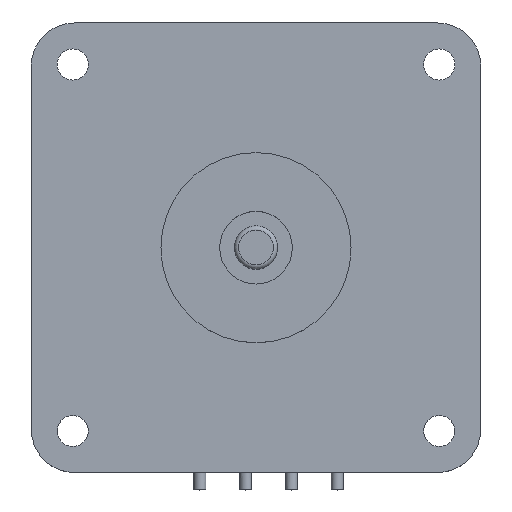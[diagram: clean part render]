
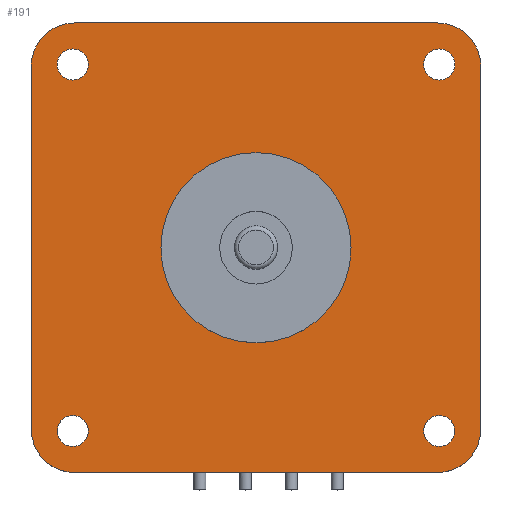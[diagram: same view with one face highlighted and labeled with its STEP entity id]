
A CAD part, top view. The second image highlights one B-rep face of the part: STEP entity #191.
In plain terms, the highlighted planar face has unit normal (0, 0, 1).
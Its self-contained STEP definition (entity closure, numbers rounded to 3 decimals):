
#74=LINE('',#1496,#94);
#75=LINE('',#1501,#95);
#76=LINE('',#1505,#96);
#77=LINE('',#1509,#97);
#94=VECTOR('',#1213,1.);
#95=VECTOR('',#1216,1.);
#96=VECTOR('',#1219,1.);
#97=VECTOR('',#1222,1.);
#191=ADVANCED_FACE('',(#316,#317,#318,#319,#320,#321),#249,.T.);
#249=PLANE('',#1013);
#316=FACE_BOUND('',#425,.T.);
#317=FACE_BOUND('',#426,.T.);
#318=FACE_BOUND('',#427,.T.);
#319=FACE_BOUND('',#428,.T.);
#320=FACE_BOUND('',#429,.T.);
#321=FACE_BOUND('',#430,.T.);
#425=EDGE_LOOP('',(#558));
#426=EDGE_LOOP('',(#559));
#427=EDGE_LOOP('',(#560));
#428=EDGE_LOOP('',(#561));
#429=EDGE_LOOP('',(#562));
#430=EDGE_LOOP('',(#563,#564,#565,#566,#567,#568,#569,#570));
#558=ORIENTED_EDGE('',*,*,#810,.T.);
#559=ORIENTED_EDGE('',*,*,#811,.T.);
#560=ORIENTED_EDGE('',*,*,#812,.T.);
#561=ORIENTED_EDGE('',*,*,#813,.T.);
#562=ORIENTED_EDGE('',*,*,#809,.F.);
#563=ORIENTED_EDGE('',*,*,#814,.T.);
#564=ORIENTED_EDGE('',*,*,#815,.T.);
#565=ORIENTED_EDGE('',*,*,#816,.T.);
#566=ORIENTED_EDGE('',*,*,#817,.T.);
#567=ORIENTED_EDGE('',*,*,#818,.T.);
#568=ORIENTED_EDGE('',*,*,#819,.T.);
#569=ORIENTED_EDGE('',*,*,#820,.T.);
#570=ORIENTED_EDGE('',*,*,#821,.T.);
#730=VERTEX_POINT('',#1486);
#731=VERTEX_POINT('',#1489);
#732=VERTEX_POINT('',#1491);
#733=VERTEX_POINT('',#1493);
#734=VERTEX_POINT('',#1495);
#735=VERTEX_POINT('',#1497);
#736=VERTEX_POINT('',#1498);
#737=VERTEX_POINT('',#1500);
#738=VERTEX_POINT('',#1502);
#739=VERTEX_POINT('',#1504);
#740=VERTEX_POINT('',#1506);
#741=VERTEX_POINT('',#1508);
#742=VERTEX_POINT('',#1510);
#809=EDGE_CURVE('',#730,#730,#906,.T.);
#810=EDGE_CURVE('',#731,#731,#907,.T.);
#811=EDGE_CURVE('',#732,#732,#908,.T.);
#812=EDGE_CURVE('',#733,#733,#909,.T.);
#813=EDGE_CURVE('',#734,#734,#910,.T.);
#814=EDGE_CURVE('',#735,#736,#74,.T.);
#815=EDGE_CURVE('',#736,#737,#911,.T.);
#816=EDGE_CURVE('',#737,#738,#75,.T.);
#817=EDGE_CURVE('',#738,#739,#912,.T.);
#818=EDGE_CURVE('',#739,#740,#76,.T.);
#819=EDGE_CURVE('',#740,#741,#913,.T.);
#820=EDGE_CURVE('',#741,#742,#77,.T.);
#821=EDGE_CURVE('',#742,#735,#914,.T.);
#906=CIRCLE('',#1003,11.);
#907=CIRCLE('',#1005,1.8);
#908=CIRCLE('',#1006,1.8);
#909=CIRCLE('',#1007,1.8);
#910=CIRCLE('',#1008,1.8);
#911=CIRCLE('',#1009,5.);
#912=CIRCLE('',#1010,5.);
#913=CIRCLE('',#1011,5.);
#914=CIRCLE('',#1012,5.);
#1003=AXIS2_PLACEMENT_3D('',#1485,#1201,#1202);
#1005=AXIS2_PLACEMENT_3D('',#1488,#1205,#1206);
#1006=AXIS2_PLACEMENT_3D('',#1490,#1207,#1208);
#1007=AXIS2_PLACEMENT_3D('',#1492,#1209,#1210);
#1008=AXIS2_PLACEMENT_3D('',#1494,#1211,#1212);
#1009=AXIS2_PLACEMENT_3D('',#1499,#1214,#1215);
#1010=AXIS2_PLACEMENT_3D('',#1503,#1217,#1218);
#1011=AXIS2_PLACEMENT_3D('',#1507,#1220,#1221);
#1012=AXIS2_PLACEMENT_3D('',#1511,#1223,#1224);
#1013=AXIS2_PLACEMENT_3D('',#1512,#1225,#1226);
#1201=DIRECTION('',(0.,0.,1.));
#1202=DIRECTION('',(1.,0.,0.));
#1205=DIRECTION('',(0.,0.,-1.));
#1206=DIRECTION('',(-1.,0.,0.));
#1207=DIRECTION('',(0.,0.,-1.));
#1208=DIRECTION('',(-1.,0.,0.));
#1209=DIRECTION('',(0.,0.,-1.));
#1210=DIRECTION('',(-1.,0.,0.));
#1211=DIRECTION('',(0.,0.,-1.));
#1212=DIRECTION('',(-1.,0.,0.));
#1213=DIRECTION('',(0.,-1.,0.));
#1214=DIRECTION('',(0.,0.,1.));
#1215=DIRECTION('',(1.,0.,0.));
#1216=DIRECTION('',(1.,0.,0.));
#1217=DIRECTION('',(0.,0.,1.));
#1218=DIRECTION('',(1.,0.,0.));
#1219=DIRECTION('',(0.,1.,0.));
#1220=DIRECTION('',(0.,0.,1.));
#1221=DIRECTION('',(1.,0.,0.));
#1222=DIRECTION('',(-1.,0.,0.));
#1223=DIRECTION('',(0.,0.,1.));
#1224=DIRECTION('',(1.,0.,0.));
#1225=DIRECTION('',(0.,0.,1.));
#1226=DIRECTION('',(1.,0.,0.));
#1485=CARTESIAN_POINT('',(0.,0.,0.));
#1486=CARTESIAN_POINT('',(11.,0.,0.));
#1488=CARTESIAN_POINT('',(-21.2,-21.2,0.));
#1489=CARTESIAN_POINT('',(-23.,-21.2,0.));
#1490=CARTESIAN_POINT('',(-21.2,21.2,0.));
#1491=CARTESIAN_POINT('',(-23.,21.2,0.));
#1492=CARTESIAN_POINT('',(21.2,-21.2,0.));
#1493=CARTESIAN_POINT('',(19.4,-21.2,0.));
#1494=CARTESIAN_POINT('',(21.2,21.2,0.));
#1495=CARTESIAN_POINT('',(19.4,21.2,0.));
#1496=CARTESIAN_POINT('',(-26.,26.,0.));
#1497=CARTESIAN_POINT('',(-26.,21.,0.));
#1498=CARTESIAN_POINT('',(-26.,-21.,0.));
#1499=CARTESIAN_POINT('',(-21.,-21.,0.));
#1500=CARTESIAN_POINT('',(-21.,-26.,0.));
#1501=CARTESIAN_POINT('',(-26.,-26.,0.));
#1502=CARTESIAN_POINT('',(21.,-26.,0.));
#1503=CARTESIAN_POINT('',(21.,-21.,0.));
#1504=CARTESIAN_POINT('',(26.,-21.,0.));
#1505=CARTESIAN_POINT('',(26.,-26.,0.));
#1506=CARTESIAN_POINT('',(26.,21.,0.));
#1507=CARTESIAN_POINT('',(21.,21.,0.));
#1508=CARTESIAN_POINT('',(21.,26.,0.));
#1509=CARTESIAN_POINT('',(26.,26.,0.));
#1510=CARTESIAN_POINT('',(-21.,26.,0.));
#1511=CARTESIAN_POINT('',(-21.,21.,0.));
#1512=CARTESIAN_POINT('',(0.,0.,0.));
